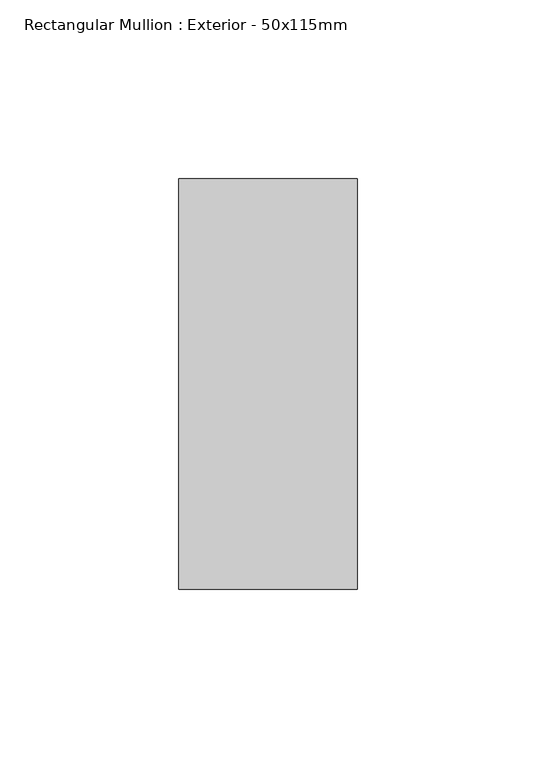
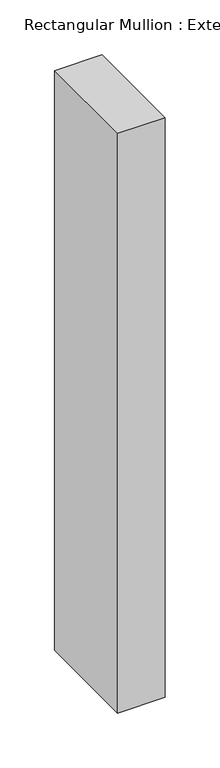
"""IFC4 building model written with IfcOpenShell, lengths in millimetres: member geometry, Rectangular Mullion : Exterior - 50x115mm."""

from ifc_helpers import new_model, si_unit, frame, origin, place, context, project, spatial, polyline, outline, extrude, source, transform, mapped, element, save


def rectangular_mullion_exterior_50x115mm_ecb5ba73(model_context):
    return source(origin(), model_context, "Body", "SweptSolid", [
        extrude(outline(polyline([(25.0, 115.0), (25.0, 0.0), (-25.0, 0.0), (-25.0, 115.0), (25.0, 115.0)])), frame((0.0, 0.0, -645.0), z_axis=(0.0, 0.0, 1.0), x_axis=(1.0, 0.0, 0.0)), (0.0, 0.0, 1.0), 645.0),
    ])


if __name__ == "__main__":
    model = new_model("IFC4")
    model_context = context("Model", 3, world=origin())
    ifc_project = project(units=[si_unit("LENGTHUNIT", "METRE", prefix="MILLI")], contexts=[model_context])
    site = spatial("IfcSite", under=ifc_project)
    building = spatial("IfcBuilding", under=site)
    placement = place(None, origin())
    rectangular_mullion_exterior_50x115mm_shape = rectangular_mullion_exterior_50x115mm_ecb5ba73(model_context)
    element("IfcMember", 1, ObjectType="Rectangular Mullion : Exterior - 50x115mm", at=placement, inside=building, context=model_context, shape_type="MappedRepresentation", body=[
        mapped(rectangular_mullion_exterior_50x115mm_shape, transform((0.0, 0.0, 0.0), x_axis=(1.0, 0.0, 0.0), y_axis=(0.0, 1.0, 0.0), z_axis=(0.0, 0.0, 1.0))),
    ])
    save(model, "model.ifc")
